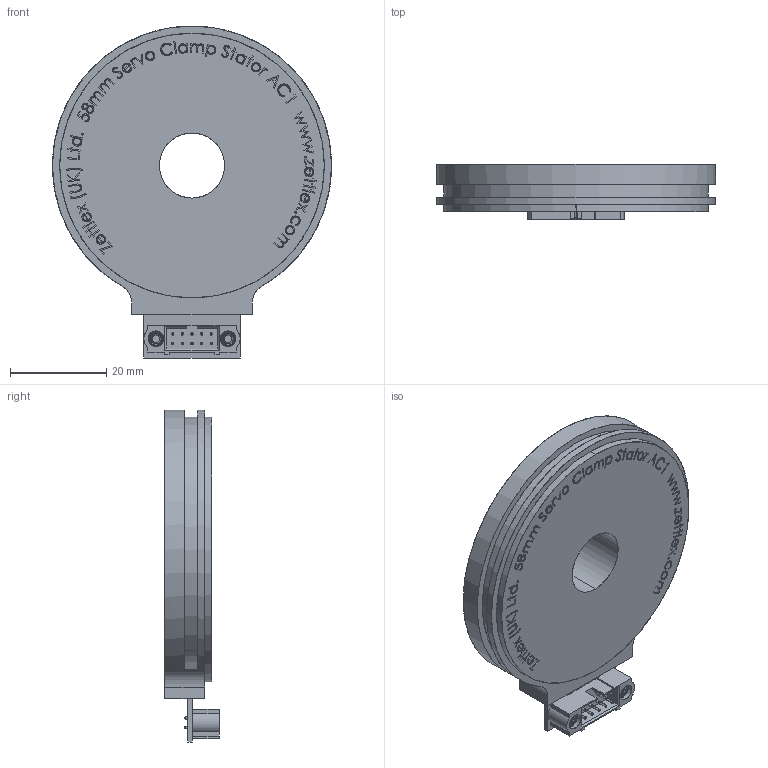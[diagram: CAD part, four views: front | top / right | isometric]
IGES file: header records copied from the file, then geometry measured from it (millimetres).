
Start section: SolidWorks IGES file using analytic representation for surfaces
Global section: file name: C:\Zettlex Data\Mechanical Drawings\1615\58mm Servo Clamp Stator AC1 Rev 1-0.IGS; native system: SolidWorks 2015; preprocessor: SolidWorks 2015; author: Nigel; date: 150908.085836; units: millimetre
Bounding box: 58 x 11.4 x 69 mm (x, y, z)
Surface area: 9266.1 mm2 (no closed solid volume)
Topology: 0 solids, 0 shells, 1004 faces, 11899 edges, 11899 vertices
Faces by surface type: bspline 798, revolution 206
